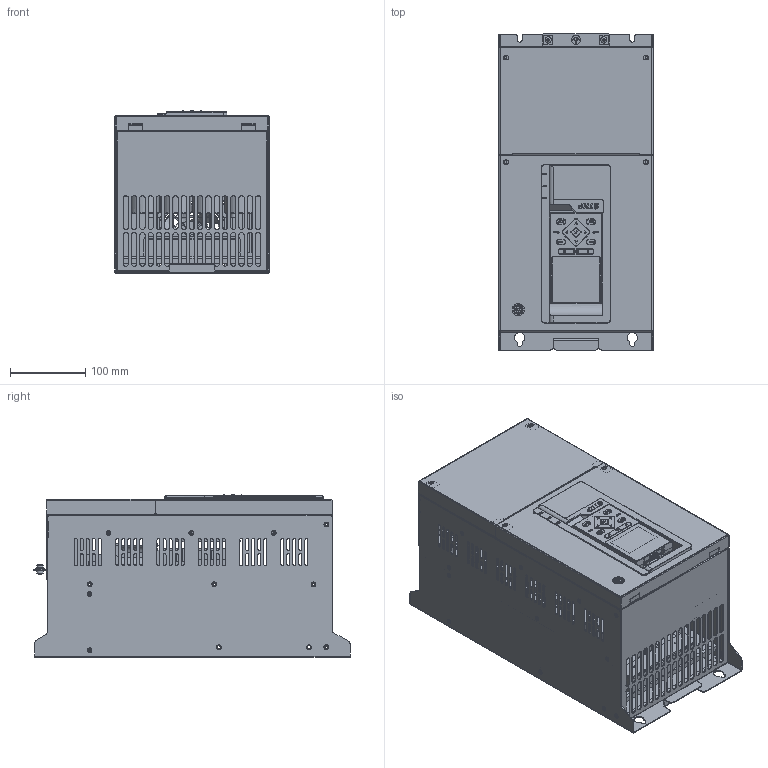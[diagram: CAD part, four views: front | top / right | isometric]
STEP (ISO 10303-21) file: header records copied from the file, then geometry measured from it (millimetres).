
FILE_DESCRIPTION(('STEP AP203'), '1');
FILE_NAME('F4', '', ('UNSPECIFIED'), ('UNSPECIFIED'), 'C3D Converter', 'C3D Toolkit', '');
FILE_SCHEMA(('CONFIG_CONTROL_DESIGN'));
Length unit declared in the file: millimetre
Products named in the file (1): INPRIME-G30-4BF
Bounding box: 205 x 420.8 x 216.2 mm (x, y, z)
Volume: 52020.9 mm3; surface area: 1630650.1 mm2
Topology: 7 solids, 248 shells, 2188 faces, 9374 edges, 7292 vertices
Faces by surface type: plane 1281, cylinder 724, bspline 83, torus 51, cone 47, sphere 2
Full cylindrical faces by diameter (mm): 1.5 x16, 2 x12, 3 x8, 3.3 x20, 3.5 x1, 3.8 x1, 4 x5, 4.2 x9, 4.3 x4, 4.4 x4, 4.5 x8, 5.5 x4, 6.85 x6, 7 x1, 7.15 x7, 7.2 x6, 7.9 x8, 8 x1, 8.5 x2, 8.7 x2, 10 x2, 12.996 x1, 36 x1, 40 x7, 84 x1, 91.6 x1
Entity records: 132247 total; most frequent: CARTESIAN_POINT 38537, DIRECTION 14386, ORIENTED_EDGE 13295, EDGE_CURVE 9139, VERTEX_POINT 7285, LINE 5816, VECTOR 5816, AXIS2_PLACEMENT_3D 4285
